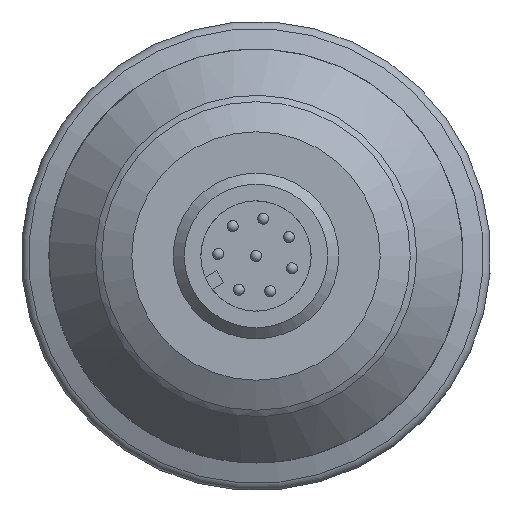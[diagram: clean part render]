
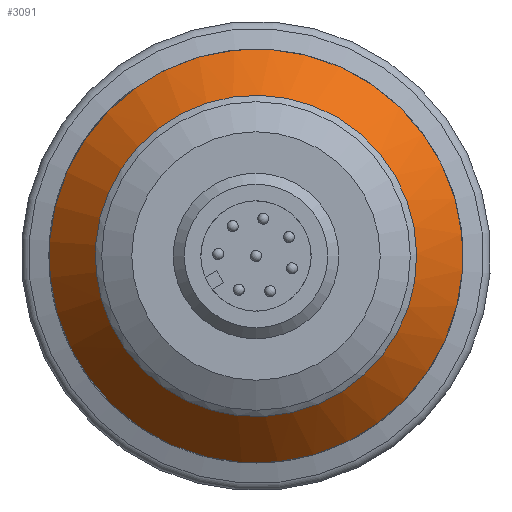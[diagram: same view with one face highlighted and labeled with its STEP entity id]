
A CAD part, front view. The second image highlights one B-rep face of the part: STEP entity #3091.
In plain terms, the highlighted conical face has half-angle 40 degrees and reference radius 15 mm.
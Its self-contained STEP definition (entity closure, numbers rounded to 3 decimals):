
#444=CONICAL_SURFACE('',#3365,15.,0.698);
#1002=ORIENTED_EDGE('',*,*,#1798,.T.);
#1003=ORIENTED_EDGE('',*,*,#1722,.F.);
#1722=EDGE_CURVE('',#2137,#2137,#2406,.T.);
#1798=EDGE_CURVE('',#2213,#2213,#2415,.T.);
#2137=VERTEX_POINT('',#4990);
#2213=VERTEX_POINT('',#5356);
#2406=CIRCLE('',#3356,15.);
#2415=CIRCLE('',#3366,11.644);
#2550=EDGE_LOOP('',(#1002));
#2551=EDGE_LOOP('',(#1003));
#2821=FACE_BOUND('',#2550,.T.);
#2822=FACE_BOUND('',#2551,.T.);
#3091=ADVANCED_FACE('',(#2821,#2822),#444,.T.);
#3356=AXIS2_PLACEMENT_3D('',#4989,#3700,#3701);
#3365=AXIS2_PLACEMENT_3D('',#5354,#3731,#3732);
#3366=AXIS2_PLACEMENT_3D('',#5355,#3733,#3734);
#3700=DIRECTION('',(0.,1.,0.));
#3701=DIRECTION('',(-0.998,0.,0.069));
#3731=DIRECTION('',(0.,1.,0.));
#3732=DIRECTION('',(-0.998,0.,0.069));
#3733=DIRECTION('',(0.,1.,0.));
#3734=DIRECTION('',(-0.998,0.,0.069));
#4989=CARTESIAN_POINT('',(0.,-33.3,0.));
#4990=CARTESIAN_POINT('',(-14.964,-33.3,1.032));
#5354=CARTESIAN_POINT('',(0.,-33.3,0.));
#5355=CARTESIAN_POINT('',(0.,-37.3,0.));
#5356=CARTESIAN_POINT('',(-11.616,-37.3,0.801));
